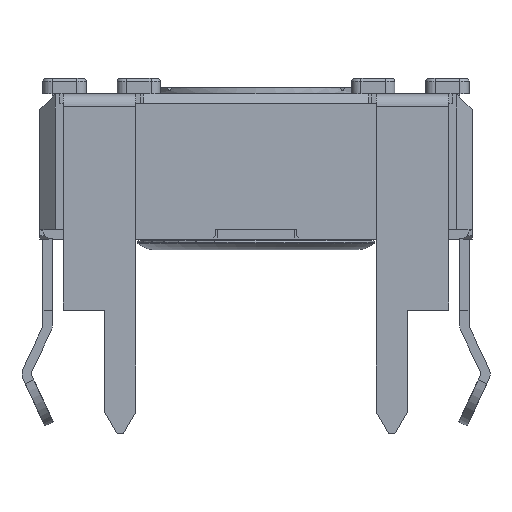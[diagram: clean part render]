
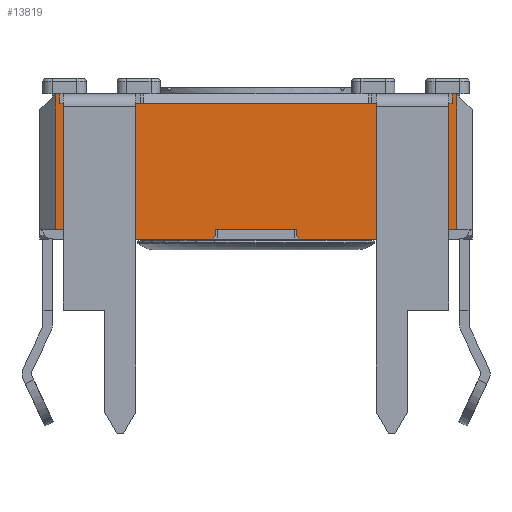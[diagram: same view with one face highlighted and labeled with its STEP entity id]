
A CAD part, front view. The second image highlights one B-rep face of the part: STEP entity #13819.
In plain terms, the highlighted planar face has unit normal (0, -1, 0).
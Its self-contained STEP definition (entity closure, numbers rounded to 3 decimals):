
#440=PLANE('',#14774);
#1083=FACE_OUTER_BOUND('',#1815,.T.);
#1815=EDGE_LOOP('',(#11261,#11262,#11263,#11264,#11265,#11266,#11267,#11268,
#11269,#11270,#11271,#11272,#11273,#11274,#11275,#11276,#11277,#11278,#11279,
#11280,#11281,#11282,#11283,#11284,#11285));
#2466=LINE('',#19866,#4046);
#2469=LINE('',#19874,#4049);
#2495=LINE('',#19925,#4075);
#2496=LINE('',#19927,#4076);
#2499=LINE('',#19935,#4079);
#2525=LINE('',#19986,#4105);
#2717=LINE('',#20550,#4297);
#2730=LINE('',#20574,#4310);
#2879=LINE('',#21029,#4459);
#3043=LINE('',#21471,#4623);
#3048=LINE('',#21481,#4628);
#3053=LINE('',#21491,#4633);
#3068=LINE('',#21517,#4648);
#3153=LINE('',#21790,#4733);
#3161=LINE('',#21808,#4741);
#3167=LINE('',#21816,#4747);
#3168=LINE('',#21819,#4748);
#3169=LINE('',#21821,#4749);
#3170=LINE('',#21823,#4750);
#3171=LINE('',#21824,#4751);
#3172=LINE('',#21825,#4752);
#3173=LINE('',#21826,#4753);
#3174=LINE('',#21827,#4754);
#3175=LINE('',#21828,#4755);
#3176=LINE('',#21829,#4756);
#4046=VECTOR('',#15927,10.);
#4049=VECTOR('',#15938,10.);
#4075=VECTOR('',#15966,10.);
#4076=VECTOR('',#15969,10.);
#4079=VECTOR('',#15980,10.);
#4105=VECTOR('',#16008,10.);
#4297=VECTOR('',#16578,10.);
#4310=VECTOR('',#16605,10.);
#4459=VECTOR('',#16992,10.);
#4623=VECTOR('',#17288,10.);
#4628=VECTOR('',#17293,10.);
#4633=VECTOR('',#17298,10.);
#4648=VECTOR('',#17315,10.);
#4733=VECTOR('',#17534,10.);
#4741=VECTOR('',#17546,10.);
#4747=VECTOR('',#17556,10.);
#4748=VECTOR('',#17559,10.);
#4749=VECTOR('',#17560,10.);
#4750=VECTOR('',#17561,10.);
#4751=VECTOR('',#17562,10.);
#4752=VECTOR('',#17563,10.);
#4753=VECTOR('',#17564,10.);
#4754=VECTOR('',#17565,10.);
#4755=VECTOR('',#17566,10.);
#4756=VECTOR('',#17567,10.);
#5686=VERTEX_POINT('',#19150);
#5696=VERTEX_POINT('',#19172);
#5704=VERTEX_POINT('',#19193);
#5743=VERTEX_POINT('',#19290);
#5952=VERTEX_POINT('',#19873);
#5976=VERTEX_POINT('',#19923);
#5977=VERTEX_POINT('',#19934);
#6001=VERTEX_POINT('',#19984);
#6183=VERTEX_POINT('',#20547);
#6184=VERTEX_POINT('',#20549);
#6187=VERTEX_POINT('',#20571);
#6188=VERTEX_POINT('',#20573);
#6314=VERTEX_POINT('',#21025);
#6431=VERTEX_POINT('',#21470);
#6435=VERTEX_POINT('',#21478);
#6436=VERTEX_POINT('',#21480);
#6440=VERTEX_POINT('',#21488);
#6441=VERTEX_POINT('',#21490);
#6503=VERTEX_POINT('',#21788);
#6504=VERTEX_POINT('',#21789);
#6511=VERTEX_POINT('',#21806);
#6512=VERTEX_POINT('',#21807);
#6513=VERTEX_POINT('',#21818);
#6514=VERTEX_POINT('',#21820);
#6515=VERTEX_POINT('',#21822);
#7352=EDGE_CURVE('',#5743,#5704,#2466,.T.);
#7355=EDGE_CURVE('',#5952,#5743,#2469,.T.);
#7381=EDGE_CURVE('',#5704,#5976,#2495,.T.);
#7382=EDGE_CURVE('',#5686,#5696,#2496,.T.);
#7385=EDGE_CURVE('',#5977,#5686,#2499,.T.);
#7411=EDGE_CURVE('',#5696,#6001,#2525,.T.);
#7694=EDGE_CURVE('',#6184,#6183,#2717,.T.);
#7707=EDGE_CURVE('',#6188,#6187,#2730,.T.);
#7905=EDGE_CURVE('',#6188,#6314,#2879,.T.);
#8090=EDGE_CURVE('',#6431,#6314,#3043,.T.);
#8095=EDGE_CURVE('',#6436,#6435,#3048,.T.);
#8100=EDGE_CURVE('',#6441,#6440,#3053,.T.);
#8115=EDGE_CURVE('',#6441,#6183,#3068,.T.);
#8219=EDGE_CURVE('',#6503,#6504,#3153,.T.);
#8227=EDGE_CURVE('',#6511,#6512,#3161,.T.);
#8233=EDGE_CURVE('',#6436,#6503,#3167,.T.);
#8234=EDGE_CURVE('',#6435,#6513,#3168,.T.);
#8235=EDGE_CURVE('',#6514,#6513,#3169,.T.);
#8236=EDGE_CURVE('',#6514,#6515,#3170,.T.);
#8237=EDGE_CURVE('',#6515,#6431,#3171,.T.);
#8238=EDGE_CURVE('',#6187,#5977,#3172,.T.);
#8239=EDGE_CURVE('',#5952,#6001,#3173,.T.);
#8240=EDGE_CURVE('',#5976,#6184,#3174,.T.);
#8241=EDGE_CURVE('',#6440,#6512,#3175,.T.);
#8242=EDGE_CURVE('',#6511,#6504,#3176,.T.);
#11261=ORIENTED_EDGE('',*,*,#8219,.F.);
#11262=ORIENTED_EDGE('',*,*,#8233,.F.);
#11263=ORIENTED_EDGE('',*,*,#8095,.T.);
#11264=ORIENTED_EDGE('',*,*,#8234,.T.);
#11265=ORIENTED_EDGE('',*,*,#8235,.F.);
#11266=ORIENTED_EDGE('',*,*,#8236,.T.);
#11267=ORIENTED_EDGE('',*,*,#8237,.T.);
#11268=ORIENTED_EDGE('',*,*,#8090,.T.);
#11269=ORIENTED_EDGE('',*,*,#7905,.F.);
#11270=ORIENTED_EDGE('',*,*,#7707,.T.);
#11271=ORIENTED_EDGE('',*,*,#8238,.T.);
#11272=ORIENTED_EDGE('',*,*,#7385,.T.);
#11273=ORIENTED_EDGE('',*,*,#7382,.T.);
#11274=ORIENTED_EDGE('',*,*,#7411,.T.);
#11275=ORIENTED_EDGE('',*,*,#8239,.F.);
#11276=ORIENTED_EDGE('',*,*,#7355,.T.);
#11277=ORIENTED_EDGE('',*,*,#7352,.T.);
#11278=ORIENTED_EDGE('',*,*,#7381,.T.);
#11279=ORIENTED_EDGE('',*,*,#8240,.T.);
#11280=ORIENTED_EDGE('',*,*,#7694,.T.);
#11281=ORIENTED_EDGE('',*,*,#8115,.F.);
#11282=ORIENTED_EDGE('',*,*,#8100,.T.);
#11283=ORIENTED_EDGE('',*,*,#8241,.T.);
#11284=ORIENTED_EDGE('',*,*,#8227,.F.);
#11285=ORIENTED_EDGE('',*,*,#8242,.T.);
#13819=ADVANCED_FACE('',(#1083),#440,.T.);
#14774=AXIS2_PLACEMENT_3D('',#21817,#17557,#17558);
#15927=DIRECTION('',(-1.,0.,0.));
#15938=DIRECTION('',(-1.,0.,0.));
#15966=DIRECTION('',(-1.,0.,0.));
#15969=DIRECTION('',(-1.,0.,0.));
#15980=DIRECTION('',(-1.,0.,0.));
#16008=DIRECTION('',(-1.,0.,0.));
#16578=DIRECTION('',(-1.,0.,0.));
#16605=DIRECTION('',(-1.,0.,0.));
#16992=DIRECTION('',(0.,0.,-1.));
#17288=DIRECTION('',(1.,0.,0.));
#17293=DIRECTION('',(1.,0.,0.));
#17298=DIRECTION('',(1.,0.,0.));
#17315=DIRECTION('',(0.,0.,1.));
#17534=DIRECTION('',(-0.707,0.,-0.707));
#17546=DIRECTION('',(-0.707,0.,0.707));
#17556=DIRECTION('',(0.,0.,-1.));
#17557=DIRECTION('center_axis',(0.,-1.,0.));
#17558=DIRECTION('ref_axis',(0.,0.,-1.));
#17559=DIRECTION('',(0.,0.,-1.));
#17560=DIRECTION('',(-0.707,0.,0.707));
#17561=DIRECTION('',(1.,0.,0.));
#17562=DIRECTION('',(0.,0.,1.));
#17563=DIRECTION('',(0.,0.,-1.));
#17564=DIRECTION('',(1.,0.,0.));
#17565=DIRECTION('',(0.,0.,1.));
#17566=DIRECTION('',(0.,0.,-1.));
#17567=DIRECTION('',(1.,0.,0.));
#19150=CARTESIAN_POINT('',(-1.217,-9.898,4.1));
#19172=CARTESIAN_POINT('',(-3.567,-9.898,4.1));
#19193=CARTESIAN_POINT('',(-13.717,-9.898,4.1));
#19290=CARTESIAN_POINT('',(-11.367,-9.898,4.1));
#19866=CARTESIAN_POINT('',(-3.944,-9.898,4.1));
#19873=CARTESIAN_POINT('',(-11.117,-9.898,4.1));
#19874=CARTESIAN_POINT('',(-3.944,-9.898,4.1));
#19923=CARTESIAN_POINT('',(-13.817,-9.898,4.1));
#19925=CARTESIAN_POINT('',(-3.944,-9.898,4.1));
#19927=CARTESIAN_POINT('',(-1.862,-9.898,4.1));
#19934=CARTESIAN_POINT('',(-1.117,-9.898,4.1));
#19935=CARTESIAN_POINT('',(-1.862,-9.898,4.1));
#19984=CARTESIAN_POINT('',(-3.817,-9.898,4.1));
#19986=CARTESIAN_POINT('',(-1.862,-9.898,4.1));
#20547=CARTESIAN_POINT('',(-13.967,-9.898,4.4));
#20549=CARTESIAN_POINT('',(-13.817,-9.898,4.4));
#20550=CARTESIAN_POINT('',(-14.467,-9.898,4.4));
#20571=CARTESIAN_POINT('',(-1.117,-9.898,4.4));
#20573=CARTESIAN_POINT('',(-0.967,-9.898,4.4));
#20574=CARTESIAN_POINT('',(-14.467,-9.898,4.4));
#21025=CARTESIAN_POINT('',(-0.967,-9.898,0.));
#21029=CARTESIAN_POINT('',(-0.967,-9.898,0.));
#21470=CARTESIAN_POINT('',(-1.467,-9.898,0.));
#21471=CARTESIAN_POINT('',(-0.646,-9.898,0.));
#21478=CARTESIAN_POINT('',(-6.167,-9.898,0.));
#21480=CARTESIAN_POINT('',(-8.767,-9.898,0.));
#21481=CARTESIAN_POINT('',(-14.467,-9.898,0.));
#21488=CARTESIAN_POINT('',(-13.467,-9.898,0.));
#21490=CARTESIAN_POINT('',(-13.967,-9.898,0.));
#21491=CARTESIAN_POINT('',(-7.245,-9.898,0.));
#21517=CARTESIAN_POINT('',(-13.967,-9.898,0.));
#21788=CARTESIAN_POINT('',(-8.767,-9.898,-0.2));
#21789=CARTESIAN_POINT('',(-8.867,-9.898,-0.3));
#21790=CARTESIAN_POINT('',(-6.667,-9.898,1.9));
#21806=CARTESIAN_POINT('',(-13.367,-9.898,-0.3));
#21807=CARTESIAN_POINT('',(-13.467,-9.898,-0.2));
#21808=CARTESIAN_POINT('',(-10.242,-9.898,-3.425));
#21816=CARTESIAN_POINT('',(-8.767,-9.898,0.));
#21817=CARTESIAN_POINT('Origin',(-0.467,-9.898,0.));
#21818=CARTESIAN_POINT('',(-6.167,-9.898,-0.2));
#21819=CARTESIAN_POINT('',(-6.167,-9.898,0.));
#21820=CARTESIAN_POINT('',(-6.067,-9.898,-0.3));
#21821=CARTESIAN_POINT('',(-4.767,-9.898,-1.6));
#21822=CARTESIAN_POINT('',(-1.467,-9.898,-0.3));
#21823=CARTESIAN_POINT('',(-0.467,-9.898,-0.3));
#21824=CARTESIAN_POINT('',(-1.467,-9.898,-0.15));
#21825=CARTESIAN_POINT('',(-1.117,-9.898,2.2));
#21826=CARTESIAN_POINT('',(-3.967,-9.898,4.1));
#21827=CARTESIAN_POINT('',(-13.817,-9.898,2.2));
#21828=CARTESIAN_POINT('',(-13.467,-9.898,-0.15));
#21829=CARTESIAN_POINT('',(-0.467,-9.898,-0.3));
